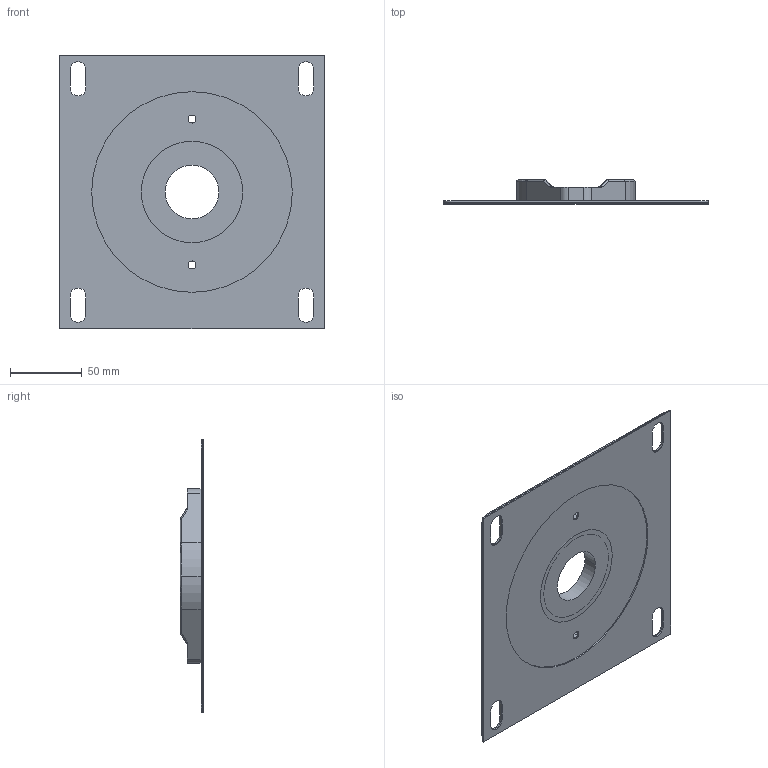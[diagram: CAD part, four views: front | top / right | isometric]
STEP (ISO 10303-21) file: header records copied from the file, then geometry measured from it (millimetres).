
FILE_DESCRIPTION (( 'STEP AP203' ), '1' );
FILE_NAME ('SLF-108T.STEP', '2015-01-21T14:43:36', ( '' ), ( '' ), 'SwSTEP 2.0', 'SolidWorks 2014', '' );
FILE_SCHEMA (( 'CONFIG_CONTROL_DESIGN' ));
Length unit declared in the file: inch
Products named in the file (1): SLF-108T
Bounding box: 184.15 x 16.64 x 190.5 mm (x, y, z)
Surface area: 124184 mm2 (no closed solid volume)
Topology: 0 solids, 4 shells, 155 faces, 405 edges, 254 vertices
Faces by surface type: cylinder 80, plane 52, bspline 8, torus 7, cone 4, sphere 4
Entity records: 5090 total; most frequent: CARTESIAN_POINT 1131, DIRECTION 834, ORIENTED_EDGE 802, EDGE_CURVE 401, AXIS2_PLACEMENT_3D 309, VERTEX_POINT 254, LINE 216, VECTOR 216
